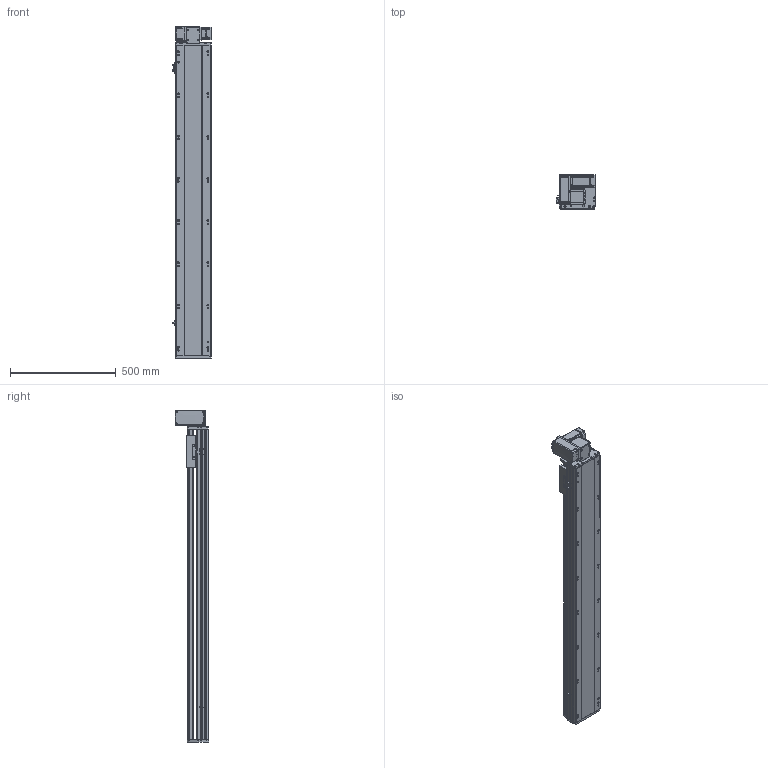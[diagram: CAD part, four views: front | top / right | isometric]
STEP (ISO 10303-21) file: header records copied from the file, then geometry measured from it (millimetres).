
FILE_DESCRIPTION (( 'STEP AP214' ), '1' );
FILE_NAME ('RTB17S-XX-1200-LW-M40-C4.STEP', '2025-12-11T07:06:02', ( '' ), ( '' ), 'SwSTEP 2.0', 'SolidWorks 2018', '' );
FILE_SCHEMA (( 'AUTOMOTIVE_DESIGN' ));
Length unit declared in the file: millimetre
Products named in the file (14): RTB17S-L-014-T20--々湍釱^RTB17S-LW-々湍釱蚾饜-400W_RTB17S-XX-XX-LW-M40-C4; RTB17S-L-004佪裝蹟譫蟀諉釱^RTB17S-XX-XX-LW-M40-C4; RTB17S-LW-々湍釱蚾饜-400W^RTB17S-XX-XX-LW-M40-C4; RTH13-BL-012覜茼え俋离^RTB17S-XX-XX-LW-M40-C4; 400W侜督萇儂^RTB17S-XX-XX-LW-M40-C4; RTB14-L-005P--轴承塑胶压盖^RTB17S-LW-皮带座装配-400W_RTB17S-XX-XX-LW-M40-C4; OMRON EE-SX672 传感器^RTB17S-XX-XX-LW-M40-C4; RTB14-L-018P^RTB17S-LW-々湍釱蚾饜-400W_RTB17S-XX-XX-LW-M40-C4; RTB17S-XX-1200-LW-M40-C4; RTB14-L-008-M20--萇儂啣^RTB17S-LW-々湍釱蚾饜-400W_RTB17S-XX-XX-LW-M40-C4; RTB17-R-011菁釱^RTB17S-XX-XX-LW-M40-C4; RTB14-L-017P^RTB17S-LW-々湍釱蚾饜-400W_RTB17S-XX-XX-LW-M40-C4; RTB17S-L-001耜醱啣^RTB17S-XX-XX-LW-M40-C4; RTB17S-L-007奻裔^RTB17S-XX-XX-LW-M40-C4
Assembly tree (16 placements, depth 3):
  RTB17S-XX-1200-LW-M40-C4
    RTB17-R-011菁釱^RTB17S-XX-XX-LW-M40-C4
    RTB17S-L-007奻裔^RTB17S-XX-XX-LW-M40-C4
    OMRON EE-SX672 传感器^RTB17S-XX-XX-LW-M40-C4  x3
    RTB17S-L-001耜醱啣^RTB17S-XX-XX-LW-M40-C4
    400W侜督萇儂^RTB17S-XX-XX-LW-M40-C4
    RTB17S-L-004佪裝蹟譫蟀諉釱^RTB17S-XX-XX-LW-M40-C4
    RTH13-BL-012覜茼え俋离^RTB17S-XX-XX-LW-M40-C4
    RTB17S-LW-々湍釱蚾饜-400W^RTB17S-XX-XX-LW-M40-C4
      RTB17S-L-014-T20--々湍釱^RTB17S-LW-々湍釱蚾饜-400W_RTB17S-XX-XX-LW-M40-C4
      RTB14-L-005P--轴承塑胶压盖^RTB17S-LW-皮带座装配-400W_RTB17S-XX-XX-LW-M40-C4
      RTB14-L-008-M20--萇儂啣^RTB17S-LW-々湍釱蚾饜-400W_RTB17S-XX-XX-LW-M40-C4
      RTB14-L-017P^RTB17S-LW-々湍釱蚾饜-400W_RTB17S-XX-XX-LW-M40-C4  x2
      RTB14-L-018P^RTB17S-LW-々湍釱蚾饜-400W_RTB17S-XX-XX-LW-M40-C4
Bounding box: 186 x 160.5 x 1572.5 mm (x, y, z)
Volume: 14007968.5 mm3; surface area: 1675023.8 mm2
Topology: 15 solids, 15 shells, 2221 faces, 6141 edges, 4005 vertices
Faces by surface type: plane 1070, cylinder 703, bspline 301, cone 139, torus 8
Entity records: 63401 total; most frequent: CARTESIAN_POINT 17746, ORIENTED_EDGE 9126, DIRECTION 8486, EDGE_CURVE 4563, VERTEX_POINT 2993, AXIS2_PLACEMENT_3D 2923, LINE 2640, VECTOR 2640
